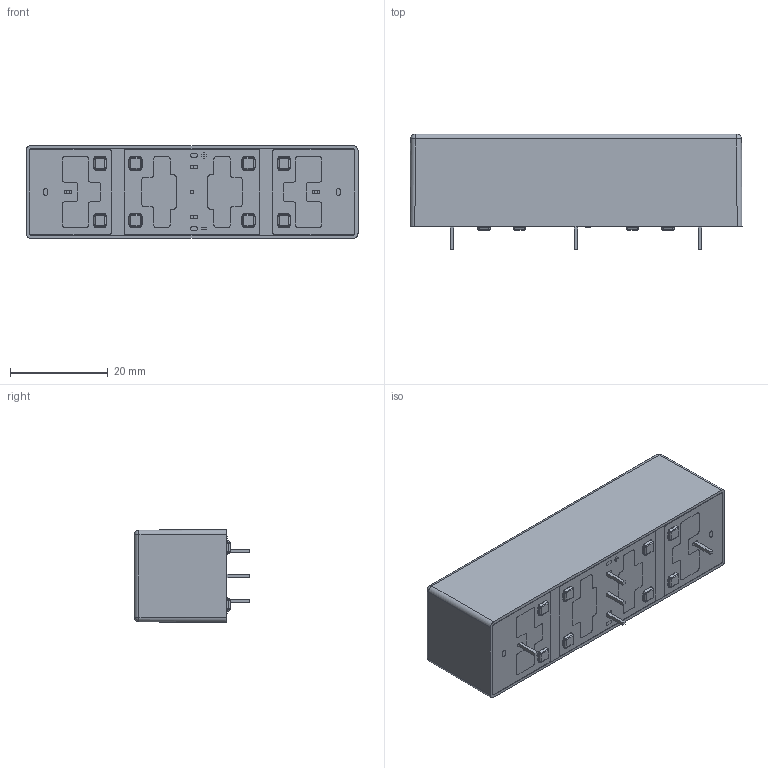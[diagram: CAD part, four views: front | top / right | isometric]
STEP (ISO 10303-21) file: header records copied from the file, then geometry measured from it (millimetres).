
FILE_DESCRIPTION (( 'STEP AP203' ), '1' );
FILE_NAME ('Series 600 - 620ES 1A or B PCB-1.STEP', '2025-07-01T09:11:03', ( '' ), ( '' ), 'SwSTEP 2.0', 'SolidWorks 2023', '' );
FILE_SCHEMA (( 'CONFIG_CONTROL_DESIGN' ));
Length unit declared in the file: millimetre
Products named in the file (1): Series 600 - 620ES 1A or B PCB-1
Bounding box: 68 x 23.7 x 19 mm (x, y, z)
Volume: 3037.1 mm3; surface area: 11577.5 mm2
Topology: 38 solids, 38 shells, 939 faces, 2408 edges, 1548 vertices
Faces by surface type: plane 443, cylinder 364, bspline 96, sphere 36
Entity records: 29141 total; most frequent: CARTESIAN_POINT 7180, ORIENTED_EDGE 4816, DIRECTION 4336, EDGE_CURVE 2408, VERTEX_POINT 1548, AXIS2_PLACEMENT_3D 1472, LINE 1392, VECTOR 1392
